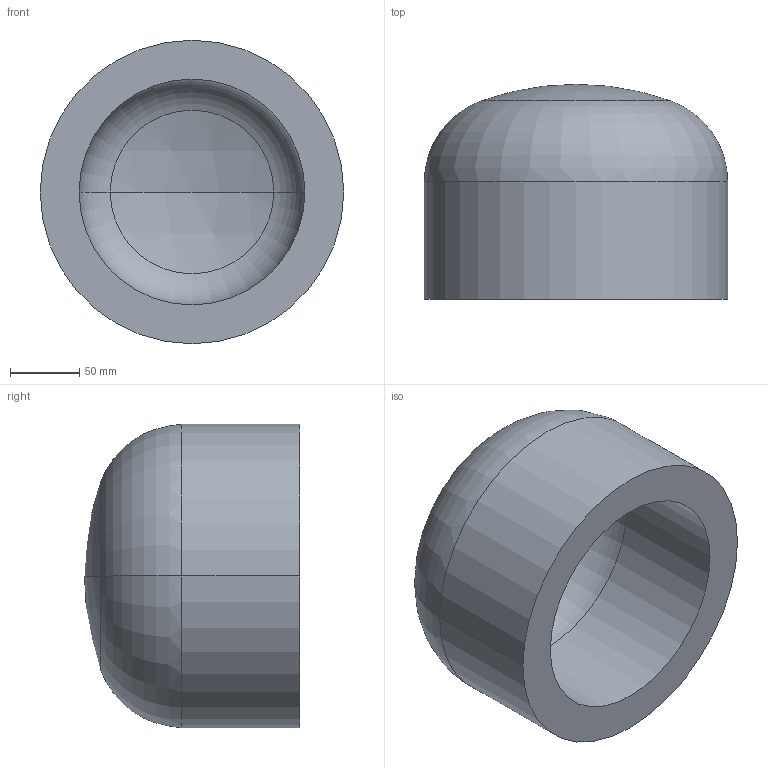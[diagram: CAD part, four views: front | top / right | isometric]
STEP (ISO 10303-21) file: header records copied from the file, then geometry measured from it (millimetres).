
FILE_DESCRIPTION (( 'STEP AP203' ), '1' );
FILE_NAME ('DIN 28013 Korbbogenform_-_Boden DIN 28013 - 219,1 x 85 - I - s=28.step', '2016-07-01T07:42:49', ( '' ), ( '' ), 'SwSTEP 2.0', 'SolidWorks 2013', '' );
FILE_SCHEMA (( 'CONFIG_CONTROL_DESIGN' ));
Length unit declared in the file: millimetre
Products named in the file (1): DIN 28013 Korbbogenform_-_Boden DIN 28013 - 219,1 x 85 - I - s=28
Bounding box: 219.1 x 155.26 x 219.1 mm (x, y, z)
Volume: 2682693.8 mm3; surface area: 210073 mm2
Topology: 1 solids, 1 shells, 13 faces, 24 edges, 14 vertices
Faces by surface type: torus 4, cylinder 4, sphere 4, plane 1
Entity records: 407 total; most frequent: DIRECTION 72, CARTESIAN_POINT 52, ORIENTED_EDGE 48, AXIS2_PLACEMENT_3D 34, EDGE_CURVE 24, CIRCLE 20, EDGE_LOOP 14, VERTEX_POINT 14
